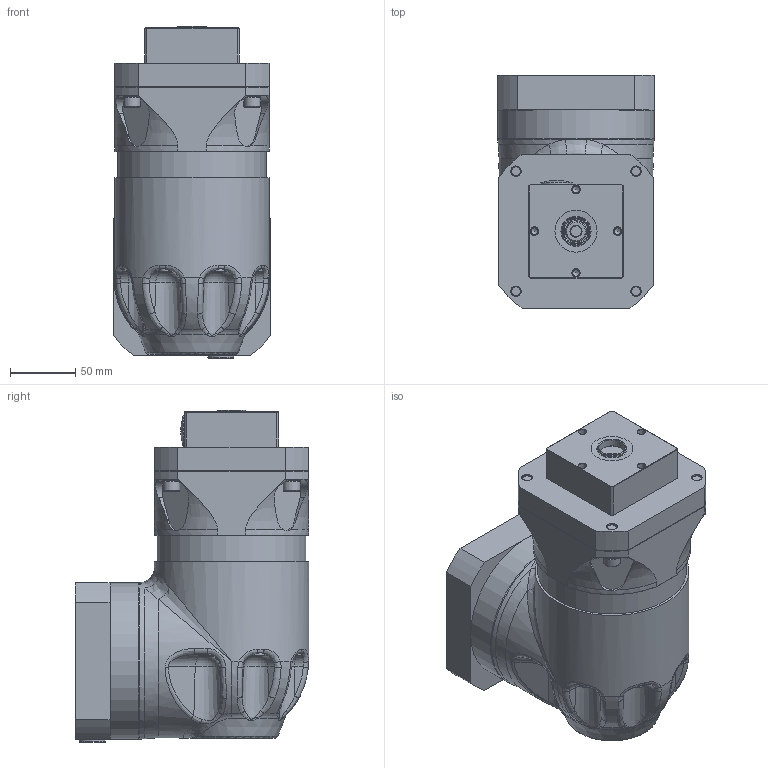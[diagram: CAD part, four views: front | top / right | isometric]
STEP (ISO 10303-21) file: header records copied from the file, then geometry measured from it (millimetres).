
FILE_DESCRIPTION (( 'STEP AP214' ), '1' );
FILE_NAME ('EPR-U-118-M2266-H1298 (24mm).STEP', '2024-10-25T16:44:37', ( '' ), ( '' ), 'SwSTEP 2.0', 'SolidWorks 2020', '' );
FILE_SCHEMA (( 'AUTOMOTIVE_DESIGN' ));
Length unit declared in the file: millimetre
Products named in the file (14): 47050012 BVL M8 8x13x0.80mm ST; EPR-U-118-M2266-H1298 (24mm); 4510XXXX M10 SHCS_M10 X 30; H1298_EPL-U-118; 23050074 EPL-U-118 to Macron 40-25 0.7500in Shaft; 51040002 14mm Plug; 55010036; 47050011 BVL M6 6x10x0.70mm ST; 4508XXXX M8 SHCS_M8 X 25; 51020004 M20 Threaded Plug; EPR-U-118; 47050004 BVL M10 10x16x1.00mm ST; 55012116 EPL-U-118 to Macron 40-25 Adapter; 4506XXXX M6 SHCS_M6 X 25                                            
Assembly tree (25 placements, depth 3):
  EPR-U-118-M2266-H1298 (24mm)
    H1298_EPL-U-118
      51020004 M20 Threaded Plug
      4510XXXX M10 SHCS_M10 X 30
      47050004 BVL M10 10x16x1.00mm ST
      47050012 BVL M8 8x13x0.80mm ST  x4
      4508XXXX M8 SHCS_M8 X 25  x4
      23050074 EPL-U-118 to Macron 40-25 0.7500in Shaft
      55012116 EPL-U-118 to Macron 40-25 Adapter
    EPR-U-118
    55010036
    51040002 14mm Plug
    4506XXXX M6 SHCS_M6 X 25                                              x4
    47050011 BVL M6 6x10x0.70mm ST  x4
Bounding box: 120 x 178.5 x 254.13 mm (x, y, z)
Volume: 1683400.2 mm3; surface area: 521090 mm2
Topology: 93 solids, 93 shells, 3938 faces, 10520 edges, 6801 vertices
Faces by surface type: cone 1465, bspline 1155, plane 826, cylinder 404, torus 72, sphere 16
Full cylindrical faces by diameter (mm): 2 x2, 2.5 x7, 4 x2, 4.5 x1, 5 x12, 5.2 x8, 6 x43, 6.5 x8, 6.6 x6, 6.8 x14, 7 x1, 8 x16, 9 x6, 10 x16, 11 x13, 12 x1, 13 x6, 13.5 x1, 14 x2, 16 x1, 16.5 x1, 18 x2, 18.5 x1, 19.05 x1, 19.3 x1, 20 x4, 22 x1, 24 x2, 24.5 x1, 25.05 x1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
Entity records: 81474 total; most frequent: CARTESIAN_POINT 33765, ORIENTED_EDGE 9920, DIRECTION 8221, EDGE_CURVE 4960, AXIS2_PLACEMENT_3D 3710, VERTEX_POINT 3389, EDGE_LOOP 2933, FACE_OUTER_BOUND 2508
